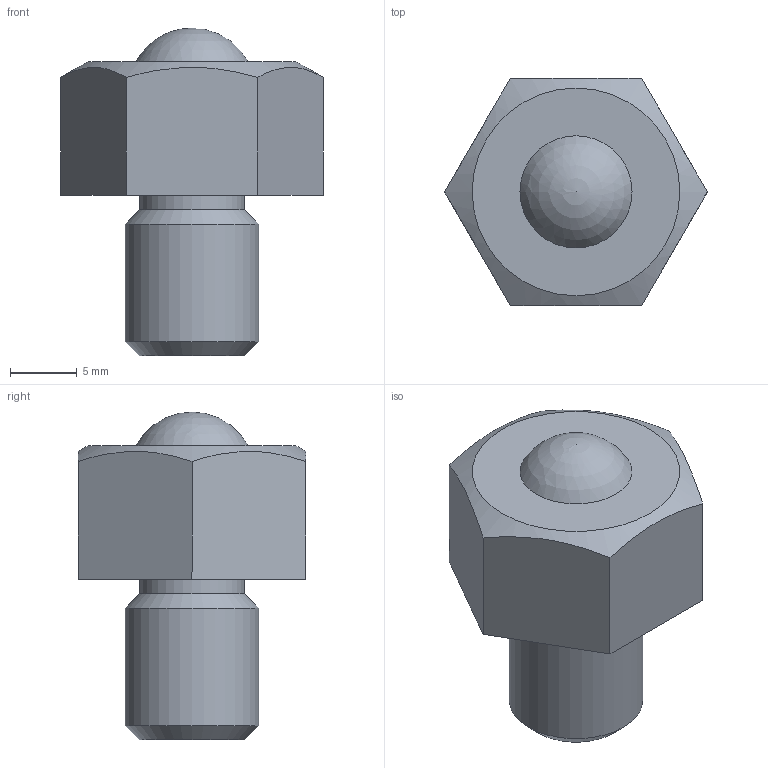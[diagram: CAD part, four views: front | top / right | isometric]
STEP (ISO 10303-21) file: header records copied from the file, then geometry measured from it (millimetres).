
FILE_DESCRIPTION(/* description */ (''),/* implementation_level */ '2;1');
FILE_NAME(/* name */ 'Z:\01-DesignData\標準品図面\★Web／カタログ用データ(型式別 3点Set)\062-ISK 系\ISK-10S-S-H\ISK-10S-S-H.stp',/* time_stamp */ '2022-05-13T11:32:45+09:00',/* author */ ('torikawa'),/* organization */ (''),/* preprocessor_version */ 'ST-DEVELOPER v18.1',/* originating_system */ 'Autodesk Inventor 2022',/* authorisation */ '');
FILE_SCHEMA (('CONFIG_CONTROL_DESIGN'));
Length unit declared in the file: millimetre
Products named in the file (1): ISK-10S-S-H
Bounding box: 19.63 x 17 x 24.5 mm (x, y, z)
Volume: 3433 mm3; surface area: 1465.6 mm2
Topology: 1 solids, 1 shells, 16 faces, 35 edges, 23 vertices
Faces by surface type: plane 10, cone 3, cylinder 2, sphere 1
Full cylindrical faces by diameter (mm): 7.85 x1, 10 x1
Entity records: 472 total; most frequent: CARTESIAN_POINT 86, DIRECTION 73, ORIENTED_EDGE 68, EDGE_CURVE 34, AXIS2_PLACEMENT_3D 28, VERTEX_POINT 23, EDGE_LOOP 19, LINE 17
